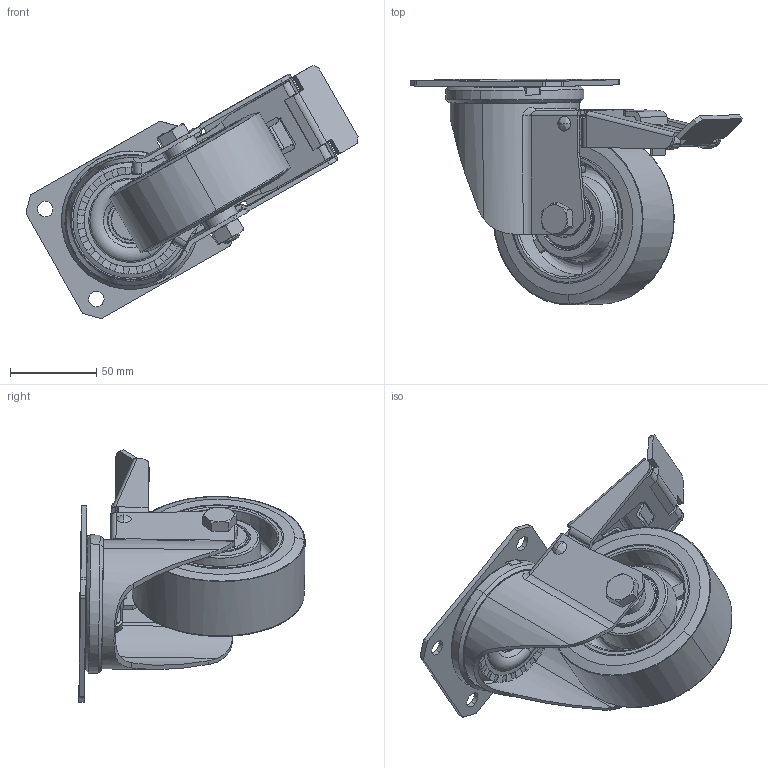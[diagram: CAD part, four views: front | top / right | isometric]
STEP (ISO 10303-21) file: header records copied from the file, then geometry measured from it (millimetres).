
FILE_DESCRIPTION (( 'STEP AP203' ), '1' );
FILE_NAME ('401517_STEP.STEP', '2015-09-14T07:20:41', ( 'admin' ), ( 'Hewlett-Packard Company' ), 'SwSTEP 2.0', 'SolidWorks 2014', '' );
FILE_SCHEMA (( 'CONFIG_CONTROL_DESIGN' ));
Length unit declared in the file: millimetre
Products named in the file (1): 401517_STEP
Bounding box: 192.75 x 131.35 x 146.88 mm (x, y, z)
Surface area: 140528.1 mm2 (no closed solid volume)
Topology: 0 solids, 18 shells, 678 faces, 1930 edges, 1247 vertices
Faces by surface type: plane 292, bspline 179, cylinder 168, torus 30, cone 8, sphere 1
Entity records: 44081 total; most frequent: CARTESIAN_POINT 28404, ORIENTED_EDGE 3437, DIRECTION 2602, EDGE_CURVE 1914, VERTEX_POINT 1244, AXIS2_PLACEMENT_3D 874, VECTOR 854, LINE 854
